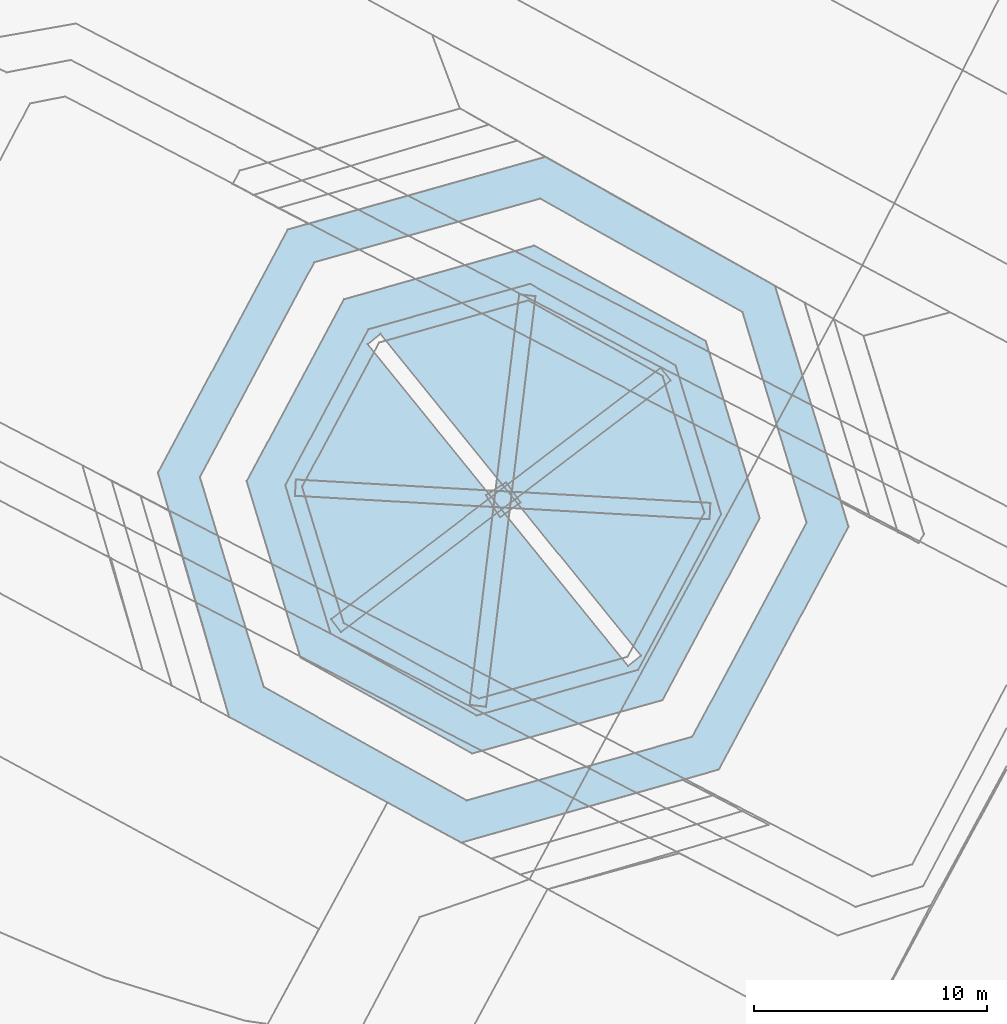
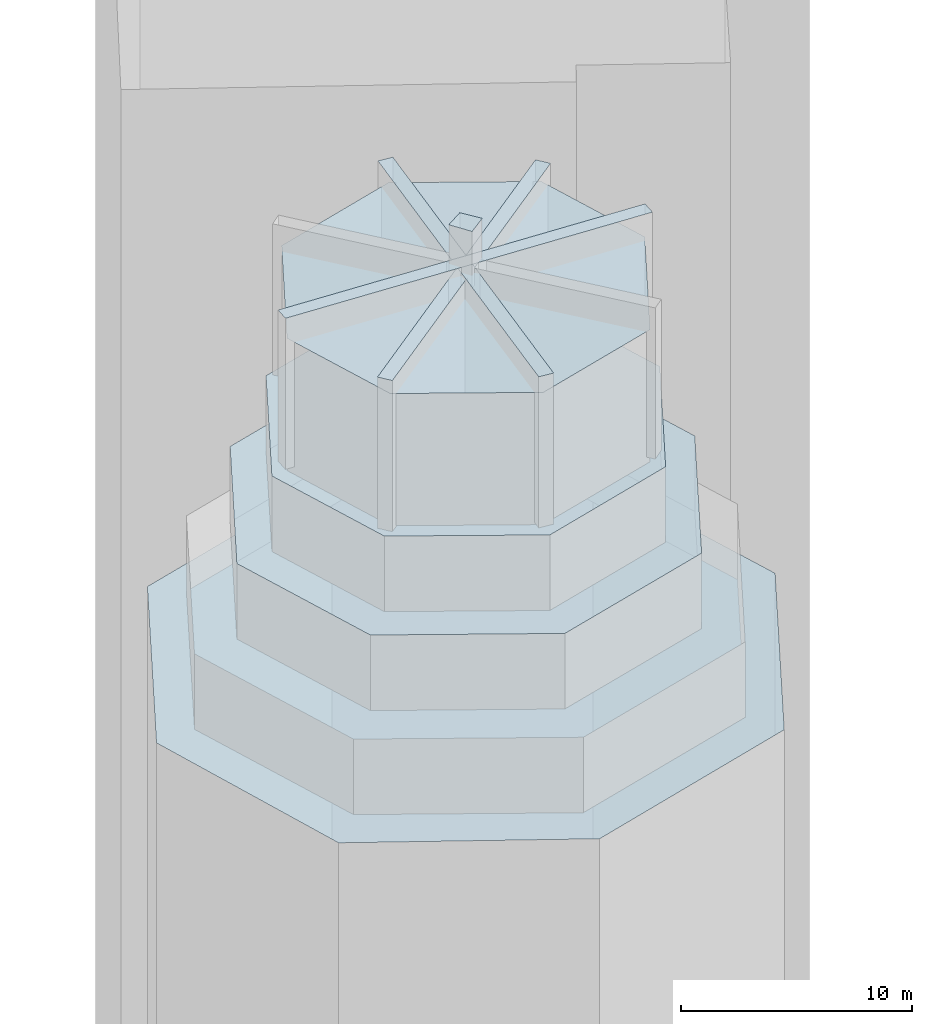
# Not in any storey, part 42 of 80: 8 roofs.
"""IFC4 building model written with IfcOpenShell, lengths in metres."""

from ifc_helpers import new_model, si_unit, frame, origin_with_axes, place, context, subcontext, project, spatial, polygons, element, save


model = new_model("IFC4")

# Units and contexts
model_context = context("Model", 3, precision=1e-05, world=origin_with_axes())
body_context = subcontext(model_context, "Body", "Model", "MODEL_VIEW")
ifc_project = project(units=[si_unit("AREAUNIT", "SQUARE_METRE"), si_unit("LENGTHUNIT", "METRE")], contexts=[model_context])

# Sites, building
site_1_placement = place(None, origin_with_axes())
site_1 = spatial("IfcSite", under=ifc_project, at=site_1_placement, Name="Topoexport Site")
site_2_placement = place(site_1_placement, origin_with_axes())
site_2 = spatial("IfcSite", under=site_1, at=site_2_placement, Name="TPX_BATIMENTS")
building_1_placement = place(site_2_placement, frame((198.9155746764, 285.0290795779, 259.6639688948), z_axis=(0.0, 0.0, 1.0), x_axis=(1.0, 0.0, 0.0)))
building_1 = spatial("IfcBuilding", under=site_2, at=building_1_placement, Name="Batiment 110", CompositionType="ELEMENT")

# Roof
roof_1_placement = place(None, frame((198.9155746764, 285.0290795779, 259.6639688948), z_axis=(0.0, 0.0, 1.0), x_axis=(1.0, 0.0, 0.0)))
element("IfcRoof", 1, at=roof_1_placement, inside=building_1, Name="Toiture 0", context=body_context, shape_type="Tessellation", body=[
    polygons([(0.0, 0.0, 8.0), (0.4284669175, -0.5501306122, 8.0), (14.5773925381, 10.2392690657, 8.0), (14.1487960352, 10.8004996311, 8.0)], [[[4, 1, 2]], [[2, 3, 4]]]),
])

# Building
building_2_placement = place(site_2_placement, frame((197.6677213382, 290.7100275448, 259.7077898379), z_axis=(0.0, 0.0, 1.0), x_axis=(1.0, 0.0, 0.0)))
building_2 = spatial("IfcBuilding", under=site_2, at=building_2_placement, Name="Batiment 111", CompositionType="ELEMENT")

# Roof
roof_2_placement = place(None, frame((197.6677213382, 290.7100275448, 259.7077898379), z_axis=(0.0, 0.0, 1.0), x_axis=(1.0, 0.0, 0.0)))
element("IfcRoof", 2, at=roof_2_placement, inside=building_2, Name="Toiture 0", context=body_context, shape_type="Tessellation", body=[
    polygons([(0.0, 0.0, 7.0), (1.7900951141, -5.8522788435, 7.0), (7.5763793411, -9.0934656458, 7.0), (13.9625274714, -7.2983490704, 7.0), (17.2671074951, -1.1092659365, 7.0), (15.47687195, 4.7541101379, 7.0), (9.6905946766, 7.9952907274, 7.0), (3.3045880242, 6.1890768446, 7.0)], [[[8, 1, 2]], [[2, 3, 4]], [[4, 5, 6]], [[6, 7, 8]], [[8, 2, 4]], [[4, 6, 8]]]),
])

# Building
building_3_placement = place(site_2_placement, frame((197.3599497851, 290.3178698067, 260.1111568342), z_axis=(0.0, 0.0, 1.0), x_axis=(1.0, 0.0, 0.0)))
building_3 = spatial("IfcBuilding", under=site_2, at=building_3_placement, Name="Batiment 112", CompositionType="ELEMENT")

# Roof
roof_3_placement = place(None, frame((197.3599497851, 290.3178698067, 260.1111568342), z_axis=(0.0, 0.0, 1.0), x_axis=(1.0, 0.0, 0.0)))
element("IfcRoof", 3, at=roof_3_placement, inside=building_3, Name="Toiture 0", context=body_context, shape_type="Tessellation", body=[
    polygons([(0.0, 0.0, 8.0), (17.7976823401, -1.0031756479, 8.0), (17.8317499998, -0.3033371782, 8.0), (0.0425095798, 0.6999365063, 8.0)], [[[4, 1, 2]], [[2, 3, 4]]]),
])

# Building
building_4_placement = place(site_2_placement, frame((196.9493964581, 290.7793907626, 255.631798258), z_axis=(0.0, 0.0, 1.0), x_axis=(1.0, 0.0, 0.0)))
building_4 = spatial("IfcBuilding", under=site_2, at=building_4_placement, Name="Batiment 113", CompositionType="ELEMENT")

# Roof
roof_4_placement = place(None, frame((196.9493964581, 290.7793907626, 255.631798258), z_axis=(0.0, 0.0, 1.0), x_axis=(1.0, 0.0, 0.0)))
element("IfcRoof", 4, at=roof_4_placement, inside=building_4, Name="Toiture 0", context=body_context, shape_type="Tessellation", body=[
    polygons([(0.0, 0.0, 4.0), (1.9480859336, -6.3722479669, 4.0), (8.2102521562, -9.8854576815, 4.0), (15.134770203, -7.9286484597, 4.0), (18.7037575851, -1.2479906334, 4.0), (16.7555291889, 5.1353539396, 4.0), (10.4935002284, 8.6374556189, 4.0), (3.5688676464, 6.6917512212, 4.0)], [[[8, 1, 2]], [[2, 3, 4]], [[4, 5, 6]], [[6, 7, 8]], [[8, 2, 4]], [[4, 6, 8]]]),
])

# Building
building_5_placement = place(site_2_placement, frame((195.292913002, 290.9488680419, 251.4761187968), z_axis=(0.0, 0.0, 1.0), x_axis=(1.0, 0.0, 0.0)))
building_5 = spatial("IfcBuilding", under=site_2, at=building_5_placement, Name="Batiment 114", CompositionType="ELEMENT")

# Roof
roof_5_placement = place(None, frame((195.292913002, 290.9488680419, 251.4761187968), z_axis=(0.0, 0.0, 1.0), x_axis=(1.0, 0.0, 0.0)))
element("IfcRoof", 5, at=roof_5_placement, inside=building_5, Name="Toiture 0", context=body_context, shape_type="Tessellation", body=[
    polygons([(0.0, 0.0, 4.0), (2.308204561, -7.5782069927, 4.0), (9.6747051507, -11.6891998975, 4.0), (17.8446396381, -9.3959413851, 4.0), (22.0165962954, -1.5758398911, 4.0), (19.7083730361, 6.0023613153, 4.0), (12.3418838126, 10.1133441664, 4.0), (4.1720986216, 7.8089905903, 4.0)], [[[8, 1, 2]], [[2, 3, 4]], [[4, 5, 6]], [[6, 7, 8]], [[8, 2, 4]], [[4, 6, 8]]]),
])

# Building
building_6_placement = place(site_2_placement, frame((191.4815843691, 291.3153359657, 21.0925550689), z_axis=(0.0, 0.0, 1.0), x_axis=(1.0, 0.0, 0.0)))
building_6 = spatial("IfcBuilding", under=site_2, at=building_6_placement, Name="Batiment 115", CompositionType="ELEMENT")

# Roof
roof_6_placement = place(None, frame((191.4815843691, 291.3153359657, 21.0925550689), z_axis=(0.0, 0.0, 1.0), x_axis=(1.0, 0.0, 0.0)))
element("IfcRoof", 6, at=roof_6_placement, inside=building_6, Name="Toiture 0", context=body_context, shape_type="Tessellation", body=[
    polygons([(0.0, 0.0, 226.0), (3.0595688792, -10.4893652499, 226.0), (13.0155840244, -15.880315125, 226.0), (24.0711095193, -12.7430327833, 226.0), (29.6392561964, -2.3087624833, 226.0), (26.4887462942, 8.0130012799, 226.0), (16.6070361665, 13.549126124, 226.0), (5.568169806, 10.4342520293, 226.0)], [[[8, 1, 2]], [[2, 3, 4]], [[4, 5, 6]], [[6, 7, 8]], [[8, 2, 4]], [[4, 6, 8]]]),
])

# Building
building_7_placement = place(site_2_placement, frame((205.5562085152, 290.3465658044, 267.1773750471), z_axis=(0.0, 0.0, 1.0), x_axis=(1.0, 0.0, 0.0)))
building_7 = spatial("IfcBuilding", under=site_2, at=building_7_placement, Name="Batiment 116", CompositionType="ELEMENT")

# Roof
roof_7_placement = place(None, frame((205.5562085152, 290.3465658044, 267.1773750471), z_axis=(0.0, 0.0, 1.0), x_axis=(1.0, 0.0, 0.0)))
element("IfcRoof", 7, at=roof_7_placement, inside=building_7, Name="Toiture 0", context=body_context, shape_type="Tessellation", body=[
    polygons([(0.0, 0.0, 3.0), (0.6187999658, -0.947598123, 3.0), (1.4976682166, -0.304548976, 3.0), (0.87146067, 0.5541448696, 3.0)], [[[4, 1, 2]], [[2, 3, 4]]]),
])

# Building
building_8_placement = place(site_2_placement, frame((204.8589467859, 281.3456288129, 259.8320280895), z_axis=(0.0, 0.0, 1.0), x_axis=(1.0, 0.0, 0.0)))
building_8 = spatial("IfcBuilding", under=site_2, at=building_8_placement, Name="Batiment 117", CompositionType="ELEMENT")

# Roof
roof_8_placement = place(None, frame((204.8589467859, 281.3456288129, 259.8320280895), z_axis=(0.0, 0.0, 1.0), x_axis=(1.0, 0.0, 0.0)))
element("IfcRoof", 8, at=roof_8_placement, inside=building_8, Name="Toiture 0", context=body_context, shape_type="Tessellation", body=[
    polygons([(0.0, 0.0, 8.0), (0.7015744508, -0.0806595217, 8.0), (2.8264731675, 17.5411295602, 8.0), (2.1249003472, 17.6217888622, 8.0)], [[[4, 1, 2]], [[2, 3, 4]]]),
])

save(model, "model.ifc")
